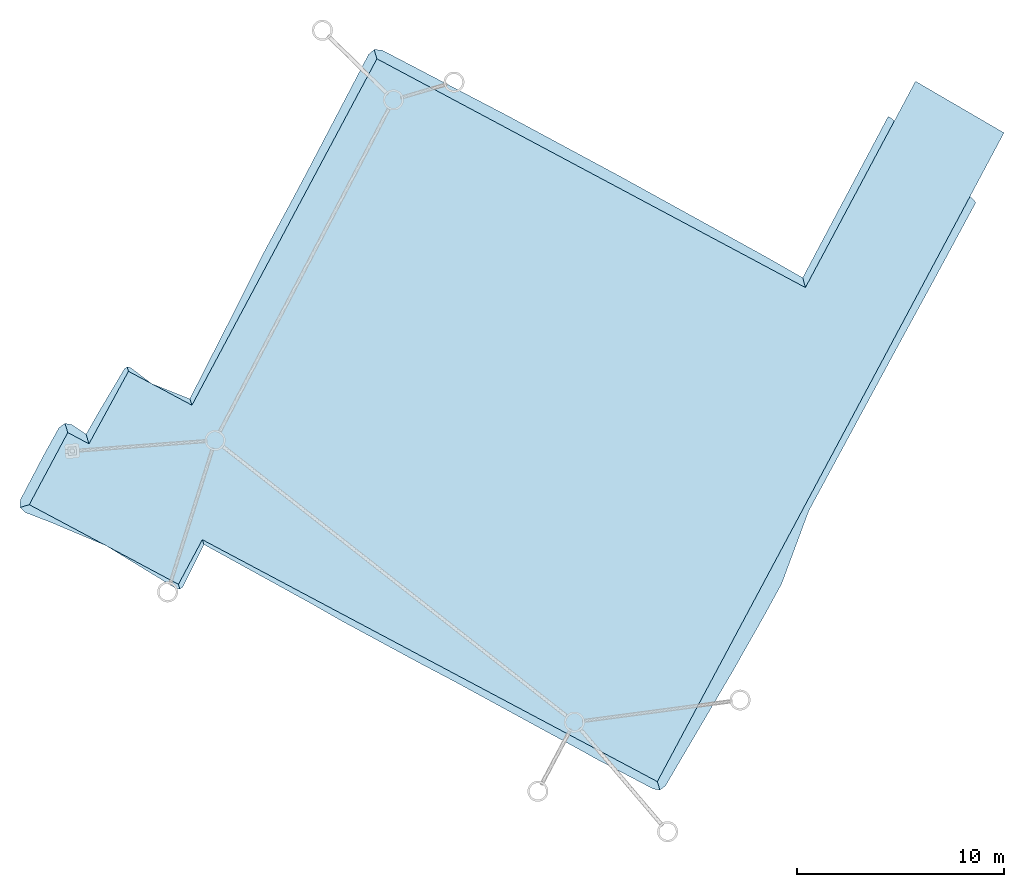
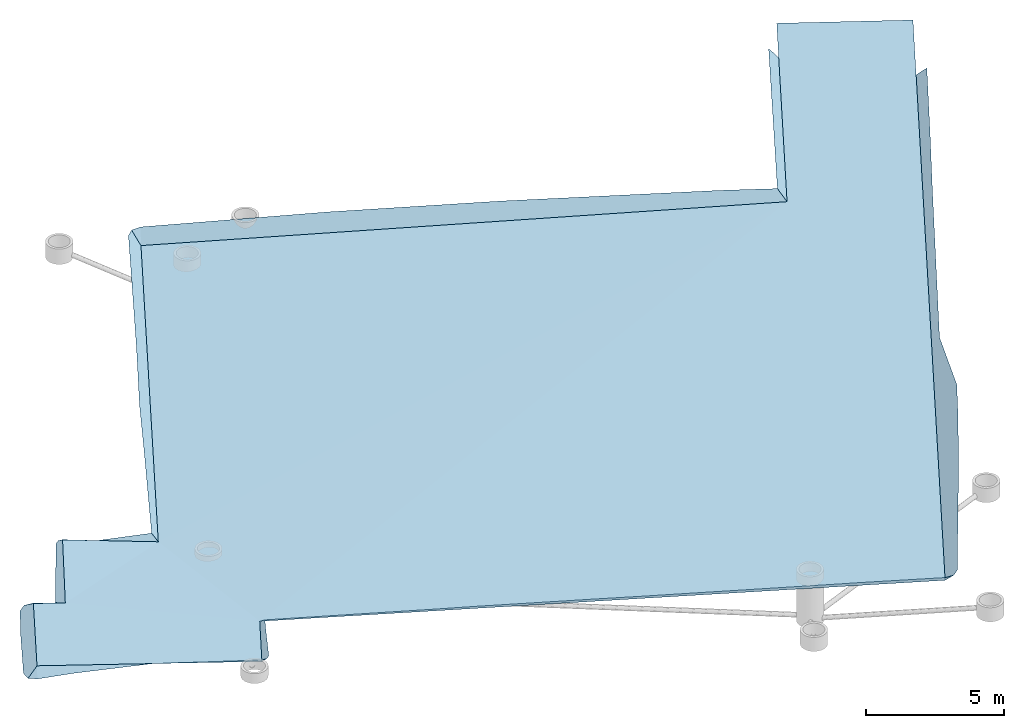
# One storey, part 1 of 2: 3 slabs.
"""IFC2X3 building model written with IfcOpenShell, lengths in metres."""

from ifc_helpers import new_model, si_unit, origin, place, context, subcontext, project, spatial, faceted_brep, material, layer, layer_set, element, save


model = new_model("IFC2X3")

# Units and contexts
model_context = context("Model", 3, world=origin())
body_context = subcontext(model_context, "Body", "Model", "MODEL_VIEW")
ifc_project = project(units=[si_unit("LENGTHUNIT", "METRE"), si_unit("AREAUNIT", "SQUARE_METRE"), si_unit("VOLUMEUNIT", "CUBIC_METRE"), si_unit("PLANEANGLEUNIT", "RADIAN"), si_unit("MASSUNIT", "GRAM", prefix="KILO")], contexts=[model_context])

# Site, building, storey
site_placement = place(None, origin())
site = spatial("IfcSite", under=ifc_project, at=site_placement, Name="Terrain", CompositionType="COMPLEX")
building_placement = place(site_placement, origin())
building = spatial("IfcBuilding", under=site, at=building_placement, Name="Non défini (Terrain)", CompositionType="ELEMENT")
storey_placement = place(building_placement, origin())
storey = spatial("IfcBuildingStorey", under=building, at=storey_placement, Name="Extérieur (Terrain)", CompositionType="ELEMENT", Elevation=87.020000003)

# Slabs
slab_1_placement = place(storey_placement, origin())
element("IfcSlab", 1, at=slab_1_placement, inside=storey, Name="Ptf : 1", ObjectType="Défaut", PredefinedType="NOTDEFINED", context=body_context, shape_type="Brep", body=[
    faceted_brep([(-75.063478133, -41.914908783, 172.31999900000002), (-76.088020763, -41.369531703, 172.31999900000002), (-75.201959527, -41.453438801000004, 172.091811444), (-47.591675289, -58.24013138, 173.599999), (-47.782783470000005, -58.599600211, 174.007110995), (-50.724943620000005, -57.050005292, 173.85844906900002), (-70.189007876, -39.741622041, 172.38285555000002), (-70.189007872, -39.741622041, 172.38285555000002), (-70.086352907, -40.047461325, 172.149999), (-78.39741151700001, -44.990815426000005, 172.007459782), (-78.38208565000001, -44.623204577, 171.992579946), (-77.94884846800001, -44.854532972, 172.31999900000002), (-78.39741151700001, -44.990815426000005, 172.007459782), (-77.94884846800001, -44.854532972, 172.31999900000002), (-78.150021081, -45.231292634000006, 172.03526266), (-70.086352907, -40.047461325, 172.15), (-73.154435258, -38.408435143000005, 172.32000000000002), (-72.038198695, -39.004749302, 172.25815022), (-47.201868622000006, -58.448419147, 174.04196396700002), (-47.467981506, -58.646161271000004, 174.024452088), (-47.591675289, -58.24013138, 173.599999), (-77.94884846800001, -44.854532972, 172.32000000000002), (-70.738703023, -48.704424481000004, 172.32000000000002), (-74.227497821, -46.841565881, 172.32000000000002), (-60.917229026, -22.874763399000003, 172.48621058), (-54.87777303, -26.031265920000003, 172.95233915), (-61.146212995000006, -23.303678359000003, 171.999999), (-35.111784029, -24.389604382, 173.4), (-37.773487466, -29.375117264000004, 173.4), (-36.141417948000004, -26.318163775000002, 173.4), (-73.21761609, -38.19732502, 172.17309116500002), (-73.057831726, -38.227603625, 172.183320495), (-73.154435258, -38.408435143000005, 172.31999900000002), (-73.154435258, -38.408435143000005, 172.31999900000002), (-75.063478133, -41.914908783, 172.31999900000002), (-74.606851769, -40.403902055, 172.10569074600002), (-76.51688996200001, -41.140535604, 171.99588104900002), (-76.22338493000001, -40.925013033, 172.010217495), (-76.088020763, -41.369531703, 172.31999900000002), (-73.421828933, -38.410643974, 172.164140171), (-76.22338493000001, -40.925013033, 172.010217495), (-75.886748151, -40.991421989, 172.03443708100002), (-76.088020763, -41.369531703, 172.31999900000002), (-75.201959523, -41.453438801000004, 172.091811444), (-73.35698496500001, -38.298160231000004, 172.16625037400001), (-73.21761609, -38.19732502, 172.17309116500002), (-73.154435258, -38.408435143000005, 172.31999900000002), (-73.35698496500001, -38.298160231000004, 172.16625037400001), (-73.057831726, -38.227603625, 172.183320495), (-72.038198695, -39.004749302, 172.25814922), (-73.154435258, -38.408435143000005, 172.31999900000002), (-61.146212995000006, -23.303678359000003, 171.999999), (-70.086352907, -40.047461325, 172.149999), (-65.257689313, -30.152988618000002, 172.463864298), (-64.726268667, -29.159183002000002, 172.454261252), (-66.58318725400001, -32.611474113, 172.49724488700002), (-68.07688814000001, -35.588071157, 172.439208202), (-69.300885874, -37.991275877, 172.40832653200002), (-72.038198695, -39.004749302, 172.25814922), (-70.189007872, -39.741622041, 172.38285555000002), (-60.917229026, -22.874763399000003, 172.48621058), (-61.146212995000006, -23.303678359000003, 171.999999), (-61.281024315, -22.860020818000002, 172.463686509), (-61.547407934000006, -23.089465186, 172.45480078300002), (-61.281024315, -22.860020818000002, 172.463686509), (-61.146212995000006, -23.303678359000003, 171.999999), (-61.547407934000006, -23.089465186, 172.45480078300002), (-40.435190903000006, -34.360630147, 173.399999), (-49.339026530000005, -29.013910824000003, 173.30480376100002), (-40.564451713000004, -33.886339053, 173.737402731), (-41.015563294, -33.628635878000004, 173.721316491), (-42.300346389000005, -32.898598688, 173.672161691), (-42.461465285, -32.80864948, 173.664629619), (-37.773487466, -29.375117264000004, 173.399999), (-40.435190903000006, -34.360630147, 173.399999), (-40.445458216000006, -33.659390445, 173.73931836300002), (-40.564451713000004, -33.886339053, 173.73740273), (-40.56445171, -33.886339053, 173.737402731), (-38.086055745, -29.208240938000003, 173.754324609), (-36.432630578, -26.088958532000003, 173.764840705), (-36.141417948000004, -26.318163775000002, 173.399999), (-69.50391004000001, -46.78180315, 172.56757852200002), (-69.50391004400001, -46.78180315, 172.56757852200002), (-69.58540031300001, -46.547376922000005, 172.38999900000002), (-36.272058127, -26.188492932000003, 173.576314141), (-38.086055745, -29.208240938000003, 173.754324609), (-37.773487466, -29.375117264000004, 173.399999), (-47.201868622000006, -58.448419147, 174.04196396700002), (-47.591675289, -58.24013138, 173.599999), (-43.955408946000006, -52.920871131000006, 174.29308369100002), (-40.27376315, -45.157367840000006, 173.871828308), (-42.685426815, -50.680711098, 174.35455812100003), (-42.459055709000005, -50.281059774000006, 174.365351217), (-34.220594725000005, -33.995193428, 173.935877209), (-35.851984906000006, -36.982376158, 173.90863336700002), (-32.477731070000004, -29.954666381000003, 173.56391814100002), (-41.586383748, -48.684872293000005, 174.380742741), (-40.256803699, -45.125687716, 173.871815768), (-40.223048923, -45.063583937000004, 173.87223940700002), (-32.202413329, -30.257504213, 173.949619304), (-32.268308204, -30.162535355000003, 173.846685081), (-47.591675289, -58.24013138, 173.60000000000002), (-30.836038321, -26.882268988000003, 173.56), (-32.477731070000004, -29.954666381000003, 173.563919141), (-47.782783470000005, -58.599600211, 174.007110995), (-47.591675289, -58.24013138, 173.599999), (-47.467981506, -58.646161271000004, 174.024452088), (-57.488874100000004, -53.352359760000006, 173.394239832), (-64.21405080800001, -49.695853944, 172.950764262), (-62.748542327, -50.531597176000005, 173.082674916), (-59.024776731, -52.544727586, 173.317816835), (-51.066710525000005, -56.852319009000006, 173.825163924), (-70.738703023, -48.704424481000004, 172.31999900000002), (-69.58540031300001, -46.547376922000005, 172.38999900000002), (-69.763218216, -47.293850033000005, 172.563914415), (-69.50391004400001, -46.78180315, 172.56757852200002), (-70.849358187, -48.911661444, 172.55492818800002), (-70.738703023, -48.704424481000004, 172.31999900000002), (-70.667524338, -48.938937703, 172.565076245), (-70.518820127, -48.821988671, 172.56933777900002), (-70.667524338, -48.938937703, 172.565076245), (-70.738703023, -48.704424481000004, 172.31999900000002), (-70.518820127, -48.821988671, 172.56933777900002), (-70.849358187, -48.911661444, 172.55492818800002), (-73.72450565, -47.150861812, 172.355919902), (-70.738703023, -48.704424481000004, 172.31999900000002), (-74.227497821, -46.841565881, 172.31999900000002), (-77.94884846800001, -44.854532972, 172.31999900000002), (-74.227497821, -46.841565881, 172.31999900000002), (-76.89254118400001, -45.716803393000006, 172.14460303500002), (-78.150021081, -45.231292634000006, 172.03526266), (-77.29157653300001, -42.536169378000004, 171.978542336), (-77.94884846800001, -44.854532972, 172.31999900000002), (-78.38208565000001, -44.623204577, 171.992579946), (-76.088020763, -41.369531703, 172.31999900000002), (-76.51688996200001, -41.140535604, 171.99588104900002), (-75.886748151, -40.991421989, 172.03443708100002), (-75.201959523, -41.453438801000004, 172.091811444)], [[[0, 1, 2]], [[3, 4, 5]], [[6, 7, 8]], [[9, 10, 11]], [[12, 13, 14]], [[15, 16, 17]], [[18, 19, 20]], [[21, 22, 23]], [[24, 25, 26]], [[27, 28, 29]], [[30, 31, 32]], [[33, 34, 35]], [[36, 37, 38]], [[39, 33, 35]], [[40, 41, 42]], [[35, 34, 43]], [[39, 44, 33]], [[45, 46, 47]], [[48, 49, 50]], [[51, 52, 53]], [[54, 51, 53]], [[53, 52, 55]], [[55, 52, 56]], [[56, 52, 57]], [[58, 6, 8]], [[57, 52, 59]], [[60, 61, 62]], [[54, 63, 51]], [[64, 65, 66]], [[67, 26, 68]], [[69, 67, 70]], [[70, 67, 71]], [[71, 67, 72]], [[72, 67, 68]], [[68, 26, 25]], [[73, 74, 75]], [[74, 76, 77]], [[75, 74, 77]], [[78, 79, 80]], [[81, 82, 83]], [[84, 80, 79]], [[75, 85, 73]], [[80, 86, 78]], [[87, 88, 89]], [[89, 88, 90]], [[91, 89, 90]], [[92, 91, 90]], [[93, 94, 95]], [[96, 92, 90]], [[90, 88, 97]], [[97, 95, 98]], [[98, 95, 94]], [[99, 95, 100]], [[99, 93, 95]], [[101, 102, 103]], [[97, 88, 95]], [[104, 105, 106]], [[83, 3, 107]], [[108, 83, 107]], [[109, 108, 110]], [[110, 108, 107]], [[107, 3, 111]], [[111, 3, 5]], [[112, 113, 114]], [[108, 81, 83]], [[114, 113, 115]], [[116, 117, 118]], [[114, 119, 112]], [[120, 121, 122]], [[123, 124, 125]], [[126, 125, 124]], [[127, 128, 129]], [[130, 127, 129]], [[131, 132, 133]], [[134, 132, 131]], [[135, 134, 131]], [[2, 1, 136]], [[2, 137, 0]]], orient=[[False], [False], [False], [False], [False], [False], [False], [False], [False], [False], [False], [False], [False], [False], [False], [False], [False], [False], [False], [False], [False], [False], [False], [False], [False], [False], [False], [False], [False], [False], [False], [False], [False], [False], [False], [False], [False], [False], [False], [False], [False], [False], [False], [False], [False], [False], [False], [False], [False], [False], [False], [False], [False], [False], [False], [False], [False], [False], [False], [False], [False], [False], [False], [False], [False], [False], [False], [False], [False], [False], [False], [False], [False], [False], [False], [False], [False], [False]]),
])
slab_2_placement = place(storey_placement, origin())
element("IfcSlab", 2, at=slab_2_placement, inside=storey, Name="Ptf : 1", ObjectType="Défaut", PredefinedType="NOTDEFINED", context=body_context, shape_type="Brep", body=[
    faceted_brep([(-75.063478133, -41.914908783, 172.32000000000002), (-77.94884846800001, -44.854532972, 172.32000000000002), (-76.088020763, -41.369531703, 172.32000000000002), (-70.738703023, -48.704424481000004, 172.32000000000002), (-69.58540031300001, -46.547376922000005, 172.39000000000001), (-30.836038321, -26.882268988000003, 173.56), (-47.591675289, -58.24013138, 173.60000000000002), (-40.435190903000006, -34.360630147, 173.4), (-70.086352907, -40.047461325, 172.15), (-37.773487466, -29.375117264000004, 173.4), (-61.146212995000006, -23.303678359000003, 172.0), (-73.154435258, -38.408435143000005, 172.32000000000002), (-35.111784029, -24.389604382, 173.4)], [[[0, 1, 2]], [[3, 0, 4]], [[5, 6, 7]], [[4, 8, 7]], [[0, 8, 4]], [[7, 6, 4]], [[9, 5, 7]], [[10, 7, 8]], [[11, 8, 0]], [[9, 12, 5]], [[3, 1, 0]]], orient=[[False], [False], [False], [False], [False], [False], [False], [False], [False], [False], [False]]),
])
ifc_material = material(Name="Décaissement")
ifc_layer = layer(ifc_material, 0.0)
ifc_layer_set = layer_set([ifc_layer])
slab_3_placement = place(storey_placement, origin())
element("IfcSlab", 3, at=slab_3_placement, inside=storey, material=ifc_layer_set, Name="Ptf : 1", ObjectType="Défaut", PredefinedType="NOTDEFINED", context=body_context, shape_type="Brep", body=[
    faceted_brep([(-76.088020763, -41.369531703, 172.32000000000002), (-76.088020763, -41.369531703, 172.32000000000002), (-77.94884846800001, -44.854532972, 172.32000000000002), (-77.94884846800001, -44.854532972, 172.32000000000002), (-75.063478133, -41.914908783, 172.32000000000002), (-75.063478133, -41.914908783, 172.32000000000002), (-70.738703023, -48.704424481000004, 172.32000000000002), (-70.738703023, -48.704424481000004, 172.32000000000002), (-69.58540031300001, -46.547376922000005, 172.39000000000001), (-69.58540031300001, -46.547376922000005, 172.39000000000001), (-47.591675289, -58.24013138, 173.60000000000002), (-47.591675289, -58.24013138, 173.60000000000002), (-30.836038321, -26.882268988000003, 173.56), (-30.836038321, -26.882268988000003, 173.56), (-40.435190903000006, -34.360630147, 173.4), (-40.435190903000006, -34.360630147, 173.4), (-70.086352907, -40.047461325, 172.15), (-70.086352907, -40.047461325, 172.15), (-37.773487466, -29.375117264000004, 173.4), (-37.773487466, -29.375117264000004, 173.4), (-61.146212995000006, -23.303678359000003, 172.0), (-61.146212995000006, -23.303678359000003, 172.0), (-73.154435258, -38.408435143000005, 172.32000000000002), (-73.154435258, -38.408435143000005, 172.32000000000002), (-35.111784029, -24.389604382, 173.4), (-35.111784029, -24.389604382, 173.4)], [[[0, 1, 2, 3]], [[4, 5, 1, 0]], [[4, 3, 0]], [[5, 2, 1]], [[6, 7, 8, 9]], [[6, 4, 9]], [[7, 5, 8]], [[10, 11, 12, 13]], [[13, 10, 14]], [[12, 11, 15]], [[9, 16, 14]], [[8, 17, 15]], [[4, 16, 9]], [[5, 17, 8]], [[9, 8, 11, 10]], [[14, 10, 9]], [[15, 11, 8]], [[18, 19, 15, 14]], [[18, 13, 14]], [[19, 12, 15]], [[20, 21, 17, 16]], [[14, 15, 21, 20]], [[20, 14, 16]], [[21, 15, 17]], [[22, 23, 5, 4]], [[16, 17, 23, 22]], [[22, 16, 4]], [[23, 17, 5]], [[13, 12, 24, 25]], [[25, 24, 19, 18]], [[18, 25, 13]], [[19, 24, 12]], [[3, 2, 7, 6]], [[6, 3, 4]], [[7, 2, 5]]], orient=[[True], [True], [False], [True], [True], [False], [True], [True], [False], [True], [False], [True], [False], [True], [True], [False], [True], [True], [False], [True], [True], [True], [False], [True], [True], [True], [False], [True], [True], [True], [False], [True], [True], [False], [True]]),
])

save(model, "model.ifc")
